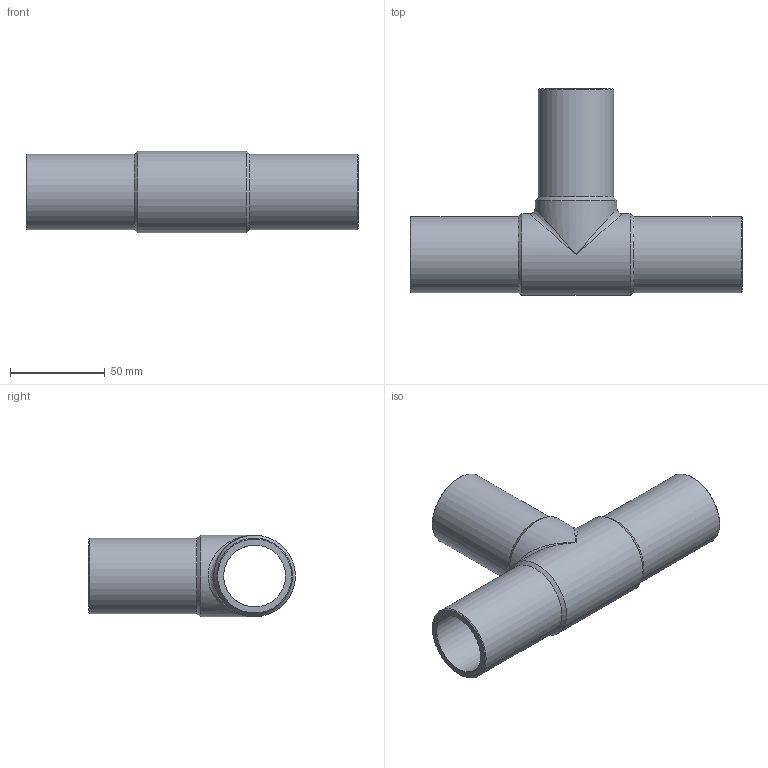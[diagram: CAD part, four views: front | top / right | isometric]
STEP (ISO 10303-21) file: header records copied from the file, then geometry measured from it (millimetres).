
FILE_DESCRIPTION(/* description */ ('Unknown'),/* implementation_level */ '2;1');
FILE_NAME(/* name */ 'TP040C',/* time_stamp */ '2021-08-11T17:53:10+02:00',/* author */ ('Unknown'),/* organization */ ('Unknown'),/* preprocessor_version */ 'ST-DEVELOPER v16.7',/* originating_system */ 'Solid Edge',/* authorisation */ 'Unknown');
FILE_SCHEMA (('AUTOMOTIVE_DESIGN {1 0 10303 214 3 1 1}'));
Length unit declared in the file: millimetre
Products named in the file (1): TP040C
Bounding box: 175 x 109 x 43 mm (x, y, z)
Volume: 113166.5 mm3; surface area: 56167.5 mm2
Topology: 1 solids, 1 shells, 18 faces, 44 edges, 23 vertices
Faces by surface type: cylinder 7, cone 6, plane 3, bspline 2
Full cylindrical faces by diameter (mm): 32.6 x2, 40 x3, 43 x2
Entity records: 504 total; most frequent: CARTESIAN_POINT 147, DIRECTION 76, ORIENTED_EDGE 42, AXIS2_PLACEMENT_3D 38, EDGE_LOOP 36, FACE_BOUND 36, EDGE_CURVE 21, VERTEX_POINT 19
